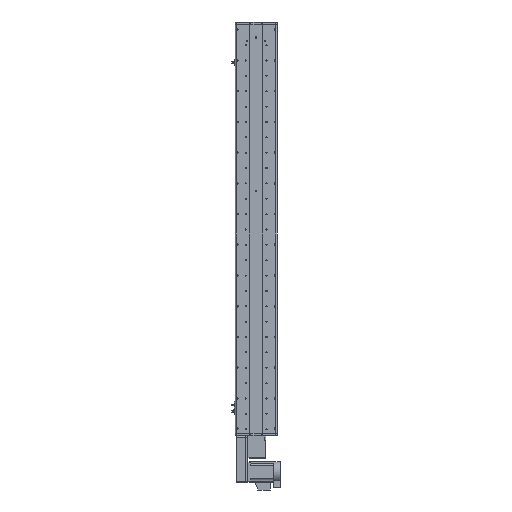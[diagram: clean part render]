
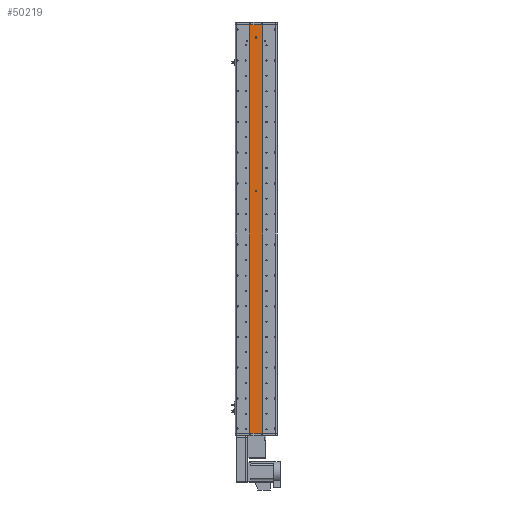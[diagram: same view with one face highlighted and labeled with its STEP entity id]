
A CAD part, front view. The second image highlights one B-rep face of the part: STEP entity #50219.
In plain terms, the highlighted planar face has unit normal (0, -1, 0).
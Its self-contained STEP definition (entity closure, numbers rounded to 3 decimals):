
#3622 = EDGE_CURVE ( 'NONE', #63437, #48147, #25786, .T. ) ;
#4227 = CARTESIAN_POINT ( 'NONE',  ( 25., 1., 798.5 ) ) ;
#4811 = CARTESIAN_POINT ( 'NONE',  ( 0., 1., 151.5 ) ) ;
#5139 = DIRECTION ( 'NONE',  ( 0., 0., -1. ) ) ;
#5545 = AXIS2_PLACEMENT_3D ( 'NONE', #37431, #6043, #42704 ) ;
#6043 = DIRECTION ( 'NONE',  ( 0., -1., 0. ) ) ;
#8594 = CARTESIAN_POINT ( 'NONE',  ( -25., 1., 798.5 ) ) ;
#9792 = CIRCLE ( 'NONE', #61019, 3. ) ;
#10944 = DIRECTION ( 'NONE',  ( 0., -1., 0. ) ) ;
#12880 = CIRCLE ( 'NONE', #5545, 3. ) ;
#14027 = CIRCLE ( 'NONE', #22630, 3. ) ;
#14848 = CARTESIAN_POINT ( 'NONE',  ( 0., 1., 145.5 ) ) ;
#14879 = AXIS2_PLACEMENT_3D ( 'NONE', #30591, #67254, #35887 ) ;
#15526 = DIRECTION ( 'NONE',  ( 0., 1., 0. ) ) ;
#16969 = EDGE_CURVE ( 'NONE', #62241, #40678, #12880, .T. ) ;
#18507 = ORIENTED_EDGE ( 'NONE', *, *, #24855, .F. ) ;
#19260 = CARTESIAN_POINT ( 'NONE',  ( 0., 1., 751.5 ) ) ;
#19311 = CARTESIAN_POINT ( 'NONE',  ( -25., 1., -798.5 ) ) ;
#20365 = DIRECTION ( 'NONE',  ( 0., 0., -1. ) ) ;
#20406 = DIRECTION ( 'NONE',  ( 1., 0., 0. ) ) ;
#20973 = EDGE_LOOP ( 'NONE', ( #36546, #29235 ) ) ;
#22630 = AXIS2_PLACEMENT_3D ( 'NONE', #67903, #36548, #5139 ) ;
#24402 = FACE_BOUND ( 'NONE', #20973, .T. ) ;
#24855 = EDGE_CURVE ( 'NONE', #42930, #33836, #57953, .T. ) ;
#25786 = LINE ( 'NONE', #46572, #65939 ) ;
#29235 = ORIENTED_EDGE ( 'NONE', *, *, #33270, .F. ) ;
#30082 = CARTESIAN_POINT ( 'NONE',  ( 25., 1., 798.5 ) ) ;
#30591 = CARTESIAN_POINT ( 'NONE',  ( 0., 1., 148.5 ) ) ;
#33270 = EDGE_CURVE ( 'NONE', #40678, #62241, #14027, .T. ) ;
#33836 = VERTEX_POINT ( 'NONE', #30082 ) ;
#35040 = VECTOR ( 'NONE', #62216, 1000. ) ;
#35095 = AXIS2_PLACEMENT_3D ( 'NONE', #62537, #15526, #52240 ) ;
#35887 = DIRECTION ( 'NONE',  ( 0., 0., -1. ) ) ;
#36138 = EDGE_CURVE ( 'NONE', #64071, #57053, #43001, .T. ) ;
#36414 = PLANE ( 'NONE',  #35095 ) ;
#36546 = ORIENTED_EDGE ( 'NONE', *, *, #16969, .F. ) ;
#36548 = DIRECTION ( 'NONE',  ( 0., -1., 0. ) ) ;
#37431 = CARTESIAN_POINT ( 'NONE',  ( 0., 1., 748.5 ) ) ;
#37598 = CARTESIAN_POINT ( 'NONE',  ( 25., 1., 798.5 ) ) ;
#37636 = VECTOR ( 'NONE', #20365, 1000. ) ;
#39194 = ORIENTED_EDGE ( 'NONE', *, *, #53139, .T. ) ;
#40678 = VERTEX_POINT ( 'NONE', #19260 ) ;
#42377 = CARTESIAN_POINT ( 'NONE',  ( 0., 1., 148.5 ) ) ;
#42704 = DIRECTION ( 'NONE',  ( 0., 0., -1. ) ) ;
#42885 = DIRECTION ( 'NONE',  ( 0., 0., -1. ) ) ;
#42930 = VERTEX_POINT ( 'NONE', #8594 ) ;
#43001 = CIRCLE ( 'NONE', #14879, 3. ) ;
#43455 = ORIENTED_EDGE ( 'NONE', *, *, #52763, .F. ) ;
#46516 = ORIENTED_EDGE ( 'NONE', *, *, #53644, .F. ) ;
#46539 = ORIENTED_EDGE ( 'NONE', *, *, #36138, .F. ) ;
#46572 = CARTESIAN_POINT ( 'NONE',  ( 25., 1., -798.5 ) ) ;
#47421 = FACE_OUTER_BOUND ( 'NONE', #66627, .T. ) ;
#47652 = DIRECTION ( 'NONE',  ( 0., 0., -1. ) ) ;
#48147 = VERTEX_POINT ( 'NONE', #55459 ) ;
#49246 = LINE ( 'NONE', #37598, #61510 ) ;
#50219 = ADVANCED_FACE ( 'NONE', ( #61309, #24402, #47421 ), #36414, .F. ) ;
#51125 = CARTESIAN_POINT ( 'NONE',  ( 0., 1., 745.5 ) ) ;
#51619 = LINE ( 'NONE', #51785, #37636 ) ;
#51785 = CARTESIAN_POINT ( 'NONE',  ( -25., 1., 798.5 ) ) ;
#52240 = DIRECTION ( 'NONE',  ( 0., 0., 1. ) ) ;
#52594 = ORIENTED_EDGE ( 'NONE', *, *, #3622, .T. ) ;
#52763 = EDGE_CURVE ( 'NONE', #33836, #48147, #49246, .T. ) ;
#53139 = EDGE_CURVE ( 'NONE', #42930, #63437, #51619, .T. ) ;
#53644 = EDGE_CURVE ( 'NONE', #57053, #64071, #9792, .T. ) ;
#55459 = CARTESIAN_POINT ( 'NONE',  ( 25., 1., -798.5 ) ) ;
#57053 = VERTEX_POINT ( 'NONE', #4811 ) ;
#57953 = LINE ( 'NONE', #4227, #35040 ) ;
#58829 = EDGE_LOOP ( 'NONE', ( #46539, #46516 ) ) ;
#61019 = AXIS2_PLACEMENT_3D ( 'NONE', #42377, #10944, #47652 ) ;
#61309 = FACE_BOUND ( 'NONE', #58829, .T. ) ;
#61510 = VECTOR ( 'NONE', #42885, 1000. ) ;
#62216 = DIRECTION ( 'NONE',  ( 1., 0., 0. ) ) ;
#62241 = VERTEX_POINT ( 'NONE', #51125 ) ;
#62537 = CARTESIAN_POINT ( 'NONE',  ( 25., 1., 798.5 ) ) ;
#63437 = VERTEX_POINT ( 'NONE', #19311 ) ;
#64071 = VERTEX_POINT ( 'NONE', #14848 ) ;
#65939 = VECTOR ( 'NONE', #20406, 1000. ) ;
#66627 = EDGE_LOOP ( 'NONE', ( #52594, #43455, #18507, #39194 ) ) ;
#67254 = DIRECTION ( 'NONE',  ( 0., -1., 0. ) ) ;
#67903 = CARTESIAN_POINT ( 'NONE',  ( 0., 1., 748.5 ) ) ;
